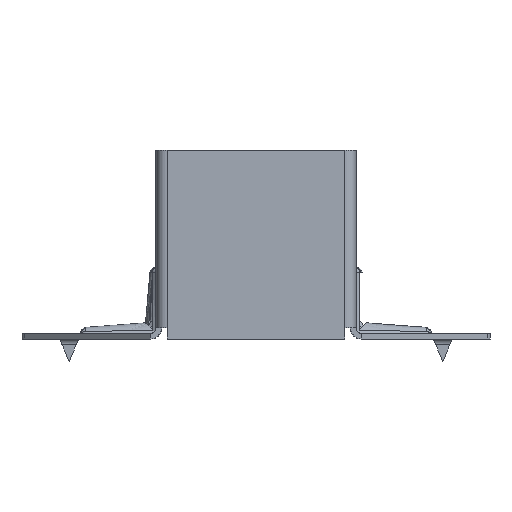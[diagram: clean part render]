
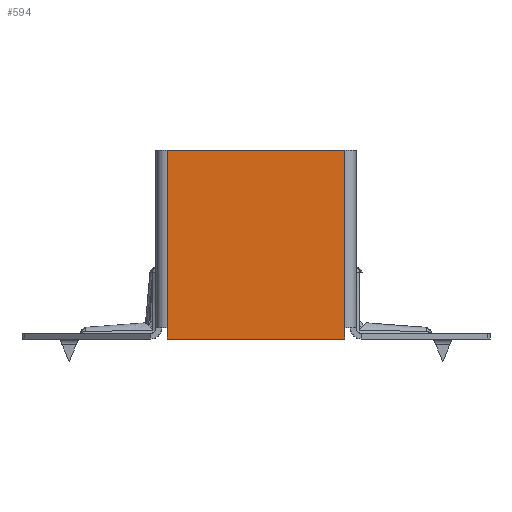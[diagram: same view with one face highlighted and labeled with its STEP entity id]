
A CAD part, front view. The second image highlights one B-rep face of the part: STEP entity #594.
In plain terms, the highlighted planar face has unit normal (0, -1, 0).
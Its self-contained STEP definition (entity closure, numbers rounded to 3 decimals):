
#417 = EDGE_CURVE ( 'NONE', #17788, #9209, #17388, .T. ) ;
#594 = ADVANCED_FACE ( 'NONE', ( #28569 ), #1565, .F. ) ;
#845 = LINE ( 'NONE', #21085, #27657 ) ;
#1565 = PLANE ( 'NONE',  #6144 ) ;
#1658 = CARTESIAN_POINT ( 'NONE',  ( -12.5, -53.25, 3. ) ) ;
#1965 = DIRECTION ( 'NONE',  ( 1., 0., 0. ) ) ;
#2267 = LINE ( 'NONE', #6053, #25264 ) ;
#2361 = VERTEX_POINT ( 'NONE', #9857 ) ;
#2722 = ORIENTED_EDGE ( 'NONE', *, *, #417, .F. ) ;
#3158 = ORIENTED_EDGE ( 'NONE', *, *, #21534, .F. ) ;
#3421 = DIRECTION ( 'NONE',  ( 0., 0., 1. ) ) ;
#4295 = ORIENTED_EDGE ( 'NONE', *, *, #10792, .F. ) ;
#5171 = EDGE_LOOP ( 'NONE', ( #3158, #4295, #2722, #23880, #10535, #21856 ) ) ;
#6053 = CARTESIAN_POINT ( 'NONE',  ( 23.5, -53.25, 3. ) ) ;
#6144 = AXIS2_PLACEMENT_3D ( 'NONE', #1658, #12844, #19272 ) ;
#7528 = DIRECTION ( 'NONE',  ( 0., 0., -1. ) ) ;
#7750 = DIRECTION ( 'NONE',  ( 0., 0., -1. ) ) ;
#7767 = VERTEX_POINT ( 'NONE', #17952 ) ;
#8362 = CARTESIAN_POINT ( 'NONE',  ( -23.5, -53.25, -29. ) ) ;
#8917 = EDGE_CURVE ( 'NONE', #7767, #23026, #845, .T. ) ;
#9209 = VERTEX_POINT ( 'NONE', #26130 ) ;
#9437 = LINE ( 'NONE', #26486, #26575 ) ;
#9857 = CARTESIAN_POINT ( 'NONE',  ( -23.5, -53.25, -32. ) ) ;
#10535 = ORIENTED_EDGE ( 'NONE', *, *, #17132, .F. ) ;
#10792 = EDGE_CURVE ( 'NONE', #9209, #15646, #12293, .T. ) ;
#12192 = CARTESIAN_POINT ( 'NONE',  ( 23.5, -53.25, -32. ) ) ;
#12293 = LINE ( 'NONE', #15483, #19618 ) ;
#12666 = EDGE_CURVE ( 'NONE', #2361, #17788, #9437, .T. ) ;
#12844 = DIRECTION ( 'NONE',  ( 0., 1., 0. ) ) ;
#13123 = DIRECTION ( 'NONE',  ( 0., 0., 1. ) ) ;
#13487 = LINE ( 'NONE', #28225, #14171 ) ;
#14171 = VECTOR ( 'NONE', #23849, 1000. ) ;
#14596 = CARTESIAN_POINT ( 'NONE',  ( -23.5, -53.25, 3. ) ) ;
#14824 = CARTESIAN_POINT ( 'NONE',  ( 23.5, -53.25, 18. ) ) ;
#15483 = CARTESIAN_POINT ( 'NONE',  ( -62., -53.25, 18. ) ) ;
#15646 = VERTEX_POINT ( 'NONE', #14824 ) ;
#17132 = EDGE_CURVE ( 'NONE', #23026, #2361, #13487, .T. ) ;
#17388 = LINE ( 'NONE', #14596, #19501 ) ;
#17788 = VERTEX_POINT ( 'NONE', #8362 ) ;
#17952 = CARTESIAN_POINT ( 'NONE',  ( 23.5, -53.25, -29. ) ) ;
#19272 = DIRECTION ( 'NONE',  ( 1., 0., 0. ) ) ;
#19501 = VECTOR ( 'NONE', #3421, 1000. ) ;
#19618 = VECTOR ( 'NONE', #1965, 1000. ) ;
#21085 = CARTESIAN_POINT ( 'NONE',  ( 23.5, -53.25, 3. ) ) ;
#21534 = EDGE_CURVE ( 'NONE', #15646, #7767, #2267, .T. ) ;
#21856 = ORIENTED_EDGE ( 'NONE', *, *, #8917, .F. ) ;
#23026 = VERTEX_POINT ( 'NONE', #12192 ) ;
#23849 = DIRECTION ( 'NONE',  ( -1., 0., 0. ) ) ;
#23880 = ORIENTED_EDGE ( 'NONE', *, *, #12666, .F. ) ;
#25264 = VECTOR ( 'NONE', #7750, 1000. ) ;
#26130 = CARTESIAN_POINT ( 'NONE',  ( -23.5, -53.25, 18. ) ) ;
#26486 = CARTESIAN_POINT ( 'NONE',  ( -23.5, -53.25, 3. ) ) ;
#26575 = VECTOR ( 'NONE', #13123, 1000. ) ;
#27657 = VECTOR ( 'NONE', #7528, 1000. ) ;
#28225 = CARTESIAN_POINT ( 'NONE',  ( -12.5, -53.25, -32. ) ) ;
#28569 = FACE_OUTER_BOUND ( 'NONE', #5171, .T. ) ;
